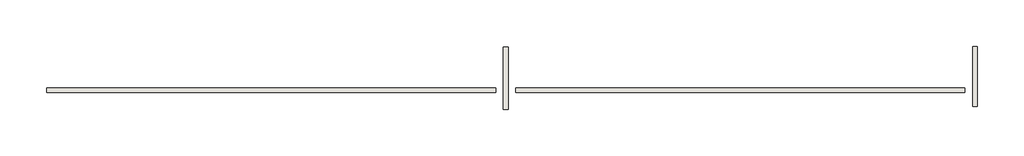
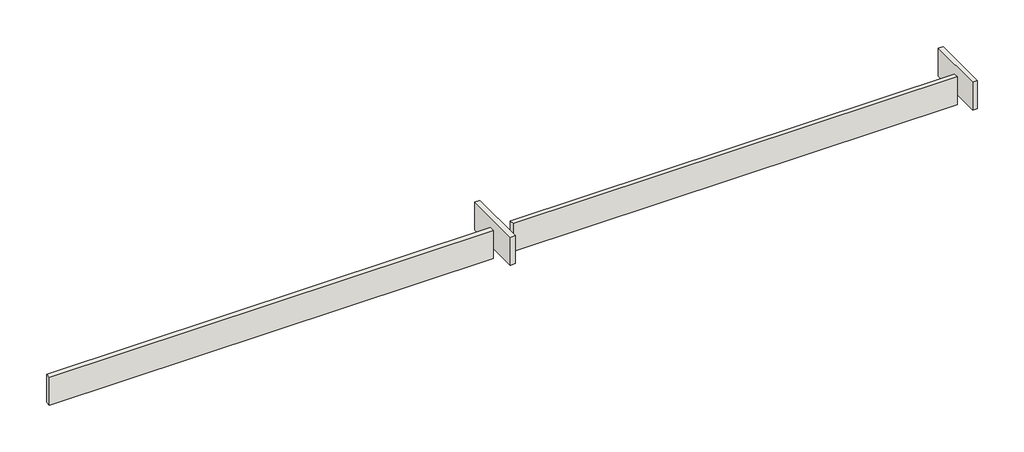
# One storey: 4 walls.
"""IFC4 building model written with IfcOpenShell, lengths in millimetres."""

import ifcopenshell
import ifcopenshell.guid

model = None  # the IFC model being written
_history = None  # IfcOwnerHistory: only IFC2X3 demands one
_inside = {}  # id of a spatial element -> (the spatial element, [elements in it])
_under = {}  # id of a project, library or spatial element -> (it, [spatial elements below it])
_declared = {}  # id of a project -> (the project, [libraries it declares])
_typed = {}  # id of a type object -> (the type object, [elements of that type])
_made_of = {}  # id of a material, layer set ... -> (it, [elements and type objects made of it])


def new_model(schema):
    """Start an empty IFC model of exactly this schema.

    Asked for "IFC4X3", IfcOpenShell would pick the latest addendum, in which some entities
    have other attributes; the version numbers below select the first issue.
    IFC2X3 requires an IfcOwnerHistory on every rooted entity: one is made here for all.
    """
    global model, _history
    if schema == "IFC4X3":
        model = ifcopenshell.file(schema_version=(4, 3, 0, 0))
    else:
        model = ifcopenshell.file(schema=schema)
    _inside.clear()
    _under.clear()
    _declared.clear()
    _typed.clear()
    _made_of.clear()
    _history = None
    if model.schema == "IFC2X3":
        org = make("IfcOrganization", Name="unknown")
        user = make(
            "IfcPersonAndOrganization",
            ThePerson=make("IfcPerson", FamilyName="unknown"),
            TheOrganization=org,
        )
        app = make(
            "IfcApplication",
            ApplicationDeveloper=org,
            Version="unknown",
            ApplicationFullName="unknown",
            ApplicationIdentifier="unknown",
        )
        _history = make(
            "IfcOwnerHistory",
            OwningUser=user,
            OwningApplication=app,
            ChangeAction="ADDED",
            CreationDate=0,
        )
    return model


def make(cls, **values):
    """One entity of the class cls with the attributes given. An attribute that is None is left unset."""
    return model.create_entity(
        cls, **{name: value for name, value in values.items() if value is not None}
    )


def rooted(cls, **values):
    """An entity with a GlobalId (a new one), such as an element, a storey or a relation."""
    return make(cls, GlobalId=ifcopenshell.guid.new(), OwnerHistory=_history, **values)


def si_unit(unit_type, name, prefix=None):
    """IfcSIUnit, for example si_unit("LENGTHUNIT", "METRE", prefix="MILLI")."""
    return make("IfcSIUnit", UnitType=unit_type, Prefix=prefix, Name=name)


def assignment(units):
    """IfcUnitAssignment: the units of a project."""
    return None if units is None else make("IfcUnitAssignment", Units=units)


def point(xyz):
    """IfcCartesianPoint."""
    return None if xyz is None else make("IfcCartesianPoint", Coordinates=xyz)


def direction(xyz):
    """IfcDirection."""
    return None if xyz is None else make("IfcDirection", DirectionRatios=xyz)


def frame(location, z_axis=None, x_axis=None):
    """IfcAxis2Placement3D, a coordinate frame: its origin and axes. An axis left out is left unset."""
    return make(
        "IfcAxis2Placement3D",
        Location=point(location),
        Axis=direction(z_axis),
        RefDirection=direction(x_axis),
    )


def origin():
    """The frame at (0, 0, 0) with its axes left unset."""
    return frame((0.0, 0.0, 0.0))


def place(relative_to, where):
    """IfcLocalPlacement: puts the frame where relative to a parent placement (None: the world)."""
    return make(
        "IfcLocalPlacement", PlacementRelTo=relative_to, RelativePlacement=where
    )


def context(
    kind, dimensions, precision=None, world=None, true_north=None, identifier=None
):
    """IfcGeometricRepresentationContext, for example the 3D "Model" context."""
    return make(
        "IfcGeometricRepresentationContext",
        ContextIdentifier=identifier,
        ContextType=kind,
        CoordinateSpaceDimension=dimensions,
        Precision=precision,
        WorldCoordinateSystem=world,
        TrueNorth=true_north,
    )


def project(units=None, contexts=None):
    """IfcProject with its units and contexts."""
    return rooted(
        "IfcProject",
        Name="project",
        RepresentationContexts=contexts,
        UnitsInContext=assignment(units),
    )


def spatial(cls, under=None, at=None, **own):
    """A site, building, storey or space (cls), placed at a placement, below another one or the project."""
    s = rooted(cls, ObjectPlacement=at, **own)
    if under is not None:
        _under.setdefault(under.id(), (under, []))[1].append(s)
    return s


def polyline(points):
    """IfcPolyline through the points."""
    return make("IfcPolyline", Points=[point(p) for p in points])


def outline(outer, holes=None, kind="AREA"):
    """IfcArbitraryClosedProfileDef: a profile drawn as a closed curve; with holes, ...WithVoids."""
    if holes is None:
        return make("IfcArbitraryClosedProfileDef", ProfileType=kind, OuterCurve=outer)
    return make(
        "IfcArbitraryProfileDefWithVoids",
        ProfileType=kind,
        OuterCurve=outer,
        InnerCurves=holes,
    )


def extrude(swept, where, along, depth):
    """IfcExtrudedAreaSolid: the profile swept, set in the frame where, extruded along a direction by depth."""
    return make(
        "IfcExtrudedAreaSolid",
        SweptArea=swept,
        Position=where,
        ExtrudedDirection=direction(along),
        Depth=depth,
    )


def shape(context_of_items, identifier, shape_type, items):
    """IfcShapeRepresentation: the items that make up one representation, for example the "Body"."""
    return make(
        "IfcShapeRepresentation",
        ContextOfItems=context_of_items,
        RepresentationIdentifier=identifier,
        RepresentationType=shape_type,
        Items=items,
    )


def made_of(thing, what):
    """Note that an element or type object is made of a material, layer set ...; save() writes the relation."""
    if what is not None:
        _made_of.setdefault(what.id(), (what, []))[1].append(thing)
    return thing


def element(
    cls,
    number,
    at=None,
    inside=None,
    cuts=None,
    type_object=None,
    material=None,
    context=None,
    identifier="Body",
    shape_type=None,
    held_by="IfcProductDefinitionShape",
    body=None,
    shapes=None,
    **own,
):
    """One element of the class cls, such as IfcWall. Its Tag is "e" and its number.

    at: its placement. inside: the storey or other place that contains it. cuts: it is an
    opening in that element (IfcRelVoidsElement). A single representation is given by context,
    identifier, shape_type and body (its items); several are given by shapes. held_by: the class
    of the entity that holds the representations. save() writes the other relations.
    """
    e = rooted(cls, Tag="e%d" % number, ObjectPlacement=at, **own)
    if body is not None:
        shapes = [shape(context, identifier, shape_type, body)]
    if shapes is not None:
        e.Representation = make(held_by, Representations=shapes)
    if inside is not None:
        _inside.setdefault(inside.id(), (inside, []))[1].append(e)
    if cuts is not None:
        rooted(
            "IfcRelVoidsElement", RelatingBuildingElement=cuts, RelatedOpeningElement=e
        )
    if type_object is not None:
        _typed.setdefault(type_object.id(), (type_object, []))[1].append(e)
    return made_of(e, material)


def aggregate(whole, parts):
    """IfcRelAggregates: a whole, such as a stair, and the parts it consists of."""
    return rooted("IfcRelAggregates", RelatingObject=whole, RelatedObjects=parts)


def save(model, path):
    """Write the relations noted so far, then the file.

    IfcRelAggregates (storeys below a building ...), IfcRelContainedInSpatialStructure (elements
    in a storey), IfcRelDefinesByType, IfcRelAssociatesMaterial and IfcRelDeclares: one each for
    every whole, place, type object, material and project.
    """
    for whole, parts in _under.values():
        aggregate(whole, parts)
    for where, things in _inside.values():
        rooted(
            "IfcRelContainedInSpatialStructure",
            RelatedElements=things,
            RelatingStructure=where,
        )
    for kind, things in _typed.values():
        rooted("IfcRelDefinesByType", RelatedObjects=things, RelatingType=kind)
    for what, things in _made_of.values():
        rooted("IfcRelAssociatesMaterial", RelatedObjects=things, RelatingMaterial=what)
    for by, libraries in _declared.values():
        rooted("IfcRelDeclares", RelatingContext=by, RelatedDefinitions=libraries)
    model.write(path)


model = new_model("IFC4")

# Units and contexts
model_context = context("Model", 3, world=origin())
ifc_project = project(units=[si_unit("LENGTHUNIT", "METRE", prefix="MILLI")], contexts=[model_context])

# Site, building, storey
site = spatial("IfcSite", under=ifc_project)
building = spatial("IfcBuilding", under=site)
storey = spatial("IfcBuildingStorey", under=building, Name="Calçada- Impermeabilização", Elevation=150.0)

# Walls
placement = place(None, origin())
element("IfcWall", 1, ObjectType="Impermeabilização 08 - Áreas frias", at=placement, inside=storey, context=model_context, shape_type="SweptSolid", body=[
    extrude(outline(polyline([(8283.8833533, -8458.8418218), (8283.8833533, -9263.9082644), (8218.8833533, -9263.9082644), (8218.8833533, -8458.8418218), (8283.8833533, -8458.8418218)])), frame((0.0, 0.0, 150.0), z_axis=(0.0, 0.0, 1.0), x_axis=(1.0, 0.0, 0.0)), (0.0, 0.0, 1.0), 400.0),
])
element("IfcWall", 2, ObjectType="Impermeabilização 08 - Áreas frias", at=placement, inside=storey, context=model_context, shape_type="SweptSolid", body=[
    extrude(outline(polyline([(2121.3833533, -9013.3410329), (8116.3833533, -9013.3410329), (8116.3833533, -9078.3410329), (2121.3833533, -9078.3410329), (2121.3833533, -9013.3410329)])), frame((0.0, 0.0, 150.0), z_axis=(0.0, 0.0, 1.0), x_axis=(1.0, 0.0, 0.0)), (0.0, 0.0, 1.0), 400.0),
])
element("IfcWall", 3, ObjectType="Impermeabilização 08 - Áreas frias", at=placement, inside=storey, context=model_context, shape_type="SweptSolid", body=[
    extrude(outline(polyline([(-4143.6166467, -9013.3410329), (1851.3833533, -9013.3410329), (1851.3833533, -9078.3410329), (-4143.6166467, -9078.3410329), (-4143.6166467, -9013.3410329)])), frame((0.0, 0.0, 150.0), z_axis=(0.0, 0.0, 1.0), x_axis=(1.0, 0.0, 0.0)), (0.0, 0.0, 1.0), 400.0),
])
element("IfcWall", 4, ObjectType="Impermeabilização 08 - Áreas frias", at=placement, inside=storey, context=model_context, shape_type="SweptSolid", body=[
    extrude(outline(polyline([(2018.8833533, -8468.8418218), (2018.8833533, -9300.8410329), (1953.8833533, -9300.8410329), (1953.8833533, -8468.8418218), (2018.8833533, -8468.8418218)])), frame((0.0, 0.0, 150.0), z_axis=(0.0, 0.0, 1.0), x_axis=(1.0, 0.0, 0.0)), (0.0, 0.0, 1.0), 400.0),
])

save(model, "model.ifc")
